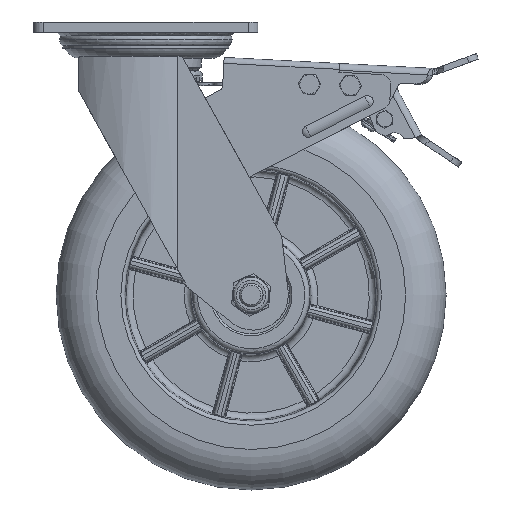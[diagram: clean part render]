
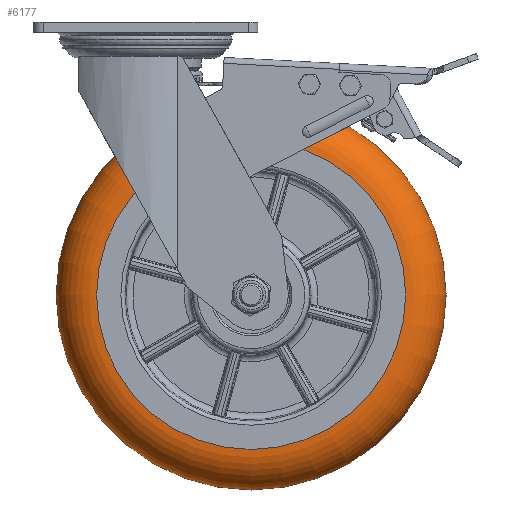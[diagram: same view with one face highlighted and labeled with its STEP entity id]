
A CAD part, front view. The second image highlights one B-rep face of the part: STEP entity #6177.
In plain terms, the highlighted toroidal (fillet/blend) face has major radius 79.237 mm and minor radius 20.763 mm.
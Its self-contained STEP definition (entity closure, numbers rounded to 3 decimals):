
#6075=TOROIDAL_SURFACE('',#24283,79.237,20.763);
#6177=ADVANCED_FACE('',(#7979,#7980),#6075,.T.);
#7979=FACE_BOUND('',#8450,.T.);
#7980=FACE_BOUND('',#8451,.T.);
#8450=EDGE_LOOP('',(#10165));
#8451=EDGE_LOOP('',(#10166));
#10165=ORIENTED_EDGE('',*,*,#19649,.T.);
#10166=ORIENTED_EDGE('',*,*,#19647,.F.);
#17326=VERTEX_POINT('',#32565);
#17328=VERTEX_POINT('',#32571);
#19647=EDGE_CURVE('',#17326,#17326,#23229,.T.);
#19649=EDGE_CURVE('',#17328,#17328,#23231,.T.);
#23229=CIRCLE('',#24278,100.);
#23231=CIRCLE('',#24282,79.237);
#24278=AXIS2_PLACEMENT_3D('',#32564,#26638,#26639);
#24282=AXIS2_PLACEMENT_3D('',#32570,#26646,#26647);
#24283=AXIS2_PLACEMENT_3D('',#32572,#26648,#26649);
#26638=DIRECTION('',(0.,1.,0.));
#26639=DIRECTION('',(-1.,0.,0.));
#26646=DIRECTION('',(0.,1.,0.));
#26647=DIRECTION('',(-1.,0.,0.));
#26648=DIRECTION('',(0.,-1.,0.));
#26649=DIRECTION('',(-1.,0.,0.));
#32564=CARTESIAN_POINT('',(54.,-3.987,-140.));
#32565=CARTESIAN_POINT('',(-46.,-3.987,-140.));
#32570=CARTESIAN_POINT('',(54.,-24.75,-140.));
#32571=CARTESIAN_POINT('',(-25.237,-24.75,-140.));
#32572=CARTESIAN_POINT('',(54.,-3.987,-140.));
